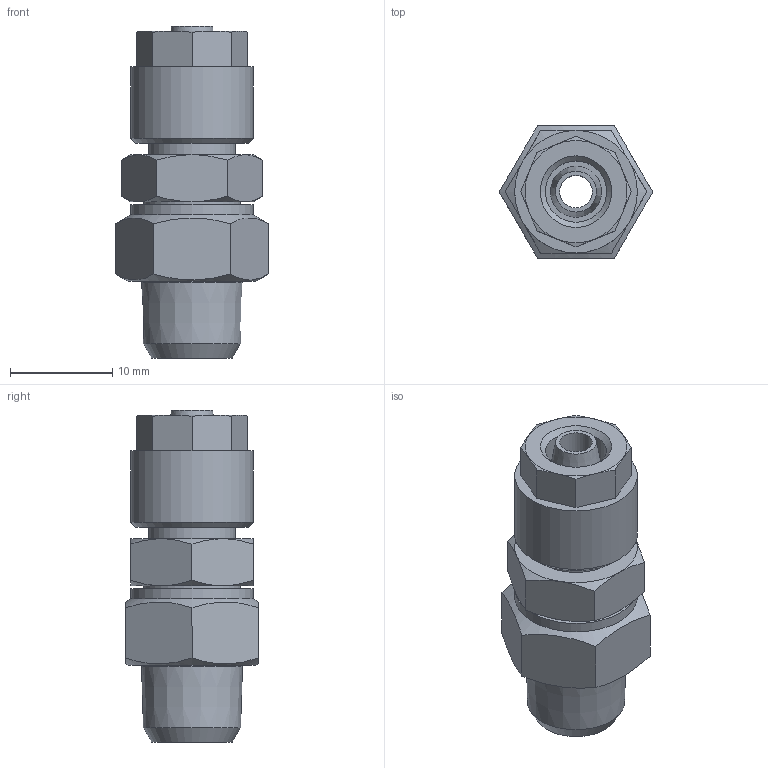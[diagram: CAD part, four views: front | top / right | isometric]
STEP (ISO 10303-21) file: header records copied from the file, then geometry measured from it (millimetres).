
FILE_DESCRIPTION(/* description */ (''),/* implementation_level */ '2;1');
FILE_NAME(/* name */ '10101_301DK_6-4_R18_18.07.16',/* time_stamp */ '2016-07-18T09:48:51+02:00',/* author */ (''),/* organization */ (''),/* preprocessor_version */ 'ST-DEVELOPER v16.5',/* originating_system */ 'HiCAD 2016 2101.0 Build 254',/* authorisation */ '');
FILE_SCHEMA (('AUTOMOTIVE_DESIGN { 1 0 10303 214 1 1 1 1 }'));
Length unit declared in the file: millimetre
Products named in the file (4): Root; 10101_Gewinde; 10101_Anschluss; 17005
Assembly tree (3 placements, depth 2):
  Root
    10101_Gewinde
    10101_Anschluss
    17005
Bounding box: 15.01 x 13 x 32.5 mm (x, y, z)
Volume: 2898.4 mm3; surface area: 2986.3 mm2
Topology: 3 solids, 3 shells, 78 faces, 170 edges, 106 vertices
Faces by surface type: plane 33, cone 32, cylinder 12, torus 1
Full cylindrical faces by diameter (mm): 3.2 x1, 4.7 x1, 5.5 x1, 6 x1, 8.5 x1, 8.773 x1, 9.5 x1, 9.6 x1, 9.884 x1, 10 x1, 12 x2
Entity records: 3392 total; most frequent: DIRECTION 410, CARTESIAN_POINT 315, PRESENTATION_STYLE_ASSIGNMENT 273, COLOUR_RGB 271, DRAUGHTING_PRE_DEFINED_CURVE_FONT 270, CURVE_STYLE 270, OVER_RIDING_STYLED_ITEM 270, ORIENTED_EDGE 270
